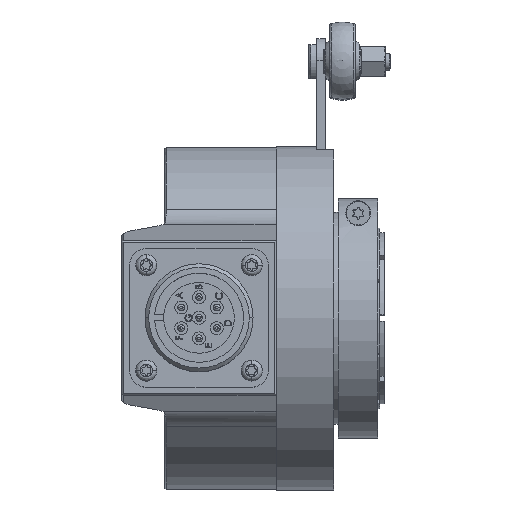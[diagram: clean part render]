
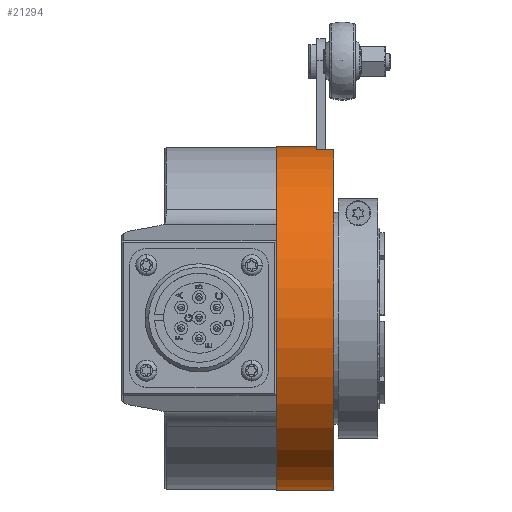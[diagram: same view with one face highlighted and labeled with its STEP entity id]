
A CAD part, top view. The second image highlights one B-rep face of the part: STEP entity #21294.
In plain terms, the highlighted cylindrical face has radius 40.075 mm (diameter 80.15 mm), a partial arc.
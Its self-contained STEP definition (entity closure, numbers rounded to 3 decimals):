
#1834 = CARTESIAN_POINT ( 'NONE',  ( 13.5, -40.075, 0. ) ) ;
#1973 = DIRECTION ( 'NONE',  ( -1., 0., 0. ) ) ;
#1978 = CARTESIAN_POINT ( 'NONE',  ( 13.5, 0., 0. ) ) ;
#2688 = AXIS2_PLACEMENT_3D ( 'NONE', #1978, #26941, #31580 ) ;
#3011 = EDGE_CURVE ( 'NONE', #14504, #24129, #3930, .T. ) ;
#3078 = CARTESIAN_POINT ( 'NONE',  ( 0., -40.075, 0. ) ) ;
#3128 = VECTOR ( 'NONE', #6475, 1000. ) ;
#3164 = AXIS2_PLACEMENT_3D ( 'NONE', #23968, #1973, #9023 ) ;
#3930 = CIRCLE ( 'NONE', #32321, 40.075 ) ;
#6085 = CARTESIAN_POINT ( 'NONE',  ( -12.775, 0., 0. ) ) ;
#6475 = DIRECTION ( 'NONE',  ( -1., 0., 0. ) ) ;
#7355 = EDGE_LOOP ( 'NONE', ( #21798, #27524, #10779, #15040, #26146, #13961 ) ) ;
#7445 = DIRECTION ( 'NONE',  ( -1., 0., 0. ) ) ;
#8873 = CARTESIAN_POINT ( 'NONE',  ( 13.5, 39.468, 6.95 ) ) ;
#8936 = CARTESIAN_POINT ( 'NONE',  ( -12.775, 40.075, 0. ) ) ;
#9023 = DIRECTION ( 'NONE',  ( 0., 1., 0. ) ) ;
#9462 = DIRECTION ( 'NONE',  ( -1., 0., 0. ) ) ;
#10032 = CIRCLE ( 'NONE', #2688, 40.075 ) ;
#10633 = EDGE_CURVE ( 'NONE', #25211, #14504, #22885, .T. ) ;
#10779 = ORIENTED_EDGE ( 'NONE', *, *, #26207, .T. ) ;
#11031 = FACE_OUTER_BOUND ( 'NONE', #7355, .T. ) ;
#11347 = EDGE_CURVE ( 'NONE', #20167, #27958, #31533, .T. ) ;
#11416 = LINE ( 'NONE', #8936, #3128 ) ;
#12280 = EDGE_CURVE ( 'NONE', #25211, #23359, #10032, .T. ) ;
#13648 = DIRECTION ( 'NONE',  ( 0., 1., 0. ) ) ;
#13961 = ORIENTED_EDGE ( 'NONE', *, *, #3011, .F. ) ;
#14504 = VERTEX_POINT ( 'NONE', #3078 ) ;
#15040 = ORIENTED_EDGE ( 'NONE', *, *, #11347, .T. ) ;
#16640 = DIRECTION ( 'NONE',  ( 0., 1., 0. ) ) ;
#17180 = LINE ( 'NONE', #31691, #27422 ) ;
#19430 = VECTOR ( 'NONE', #7445, 1000. ) ;
#19444 = CARTESIAN_POINT ( 'NONE',  ( 0., 0., 0. ) ) ;
#19927 = AXIS2_PLACEMENT_3D ( 'NONE', #6085, #31260, #13648 ) ;
#20167 = VERTEX_POINT ( 'NONE', #28754 ) ;
#20961 = CARTESIAN_POINT ( 'NONE',  ( 9.5, 40.075, 0. ) ) ;
#21294 = ADVANCED_FACE ( 'NONE', ( #11031 ), #28600, .T. ) ;
#21798 = ORIENTED_EDGE ( 'NONE', *, *, #10633, .F. ) ;
#22885 = LINE ( 'NONE', #29810, #19430 ) ;
#23188 = CARTESIAN_POINT ( 'NONE',  ( 0., 40.075, 0. ) ) ;
#23359 = VERTEX_POINT ( 'NONE', #8873 ) ;
#23968 = CARTESIAN_POINT ( 'NONE',  ( 9.5, 0., 0. ) ) ;
#24129 = VERTEX_POINT ( 'NONE', #23188 ) ;
#25211 = VERTEX_POINT ( 'NONE', #1834 ) ;
#26146 = ORIENTED_EDGE ( 'NONE', *, *, #32022, .T. ) ;
#26207 = EDGE_CURVE ( 'NONE', #23359, #20167, #17180, .T. ) ;
#26941 = DIRECTION ( 'NONE',  ( -1., 0., 0. ) ) ;
#27422 = VECTOR ( 'NONE', #9462, 1000. ) ;
#27524 = ORIENTED_EDGE ( 'NONE', *, *, #12280, .T. ) ;
#27958 = VERTEX_POINT ( 'NONE', #20961 ) ;
#28600 = CYLINDRICAL_SURFACE ( 'NONE', #19927, 40.075 ) ;
#28754 = CARTESIAN_POINT ( 'NONE',  ( 9.5, 39.468, 6.95 ) ) ;
#29466 = DIRECTION ( 'NONE',  ( -1., 0., 0. ) ) ;
#29810 = CARTESIAN_POINT ( 'NONE',  ( -12.775, -40.075, 0. ) ) ;
#31260 = DIRECTION ( 'NONE',  ( -1., 0., 0. ) ) ;
#31533 = CIRCLE ( 'NONE', #3164, 40.075 ) ;
#31580 = DIRECTION ( 'NONE',  ( 0., 1., 0. ) ) ;
#31691 = CARTESIAN_POINT ( 'NONE',  ( -12.775, 39.468, 6.95 ) ) ;
#32022 = EDGE_CURVE ( 'NONE', #27958, #24129, #11416, .T. ) ;
#32321 = AXIS2_PLACEMENT_3D ( 'NONE', #19444, #29466, #16640 ) ;
